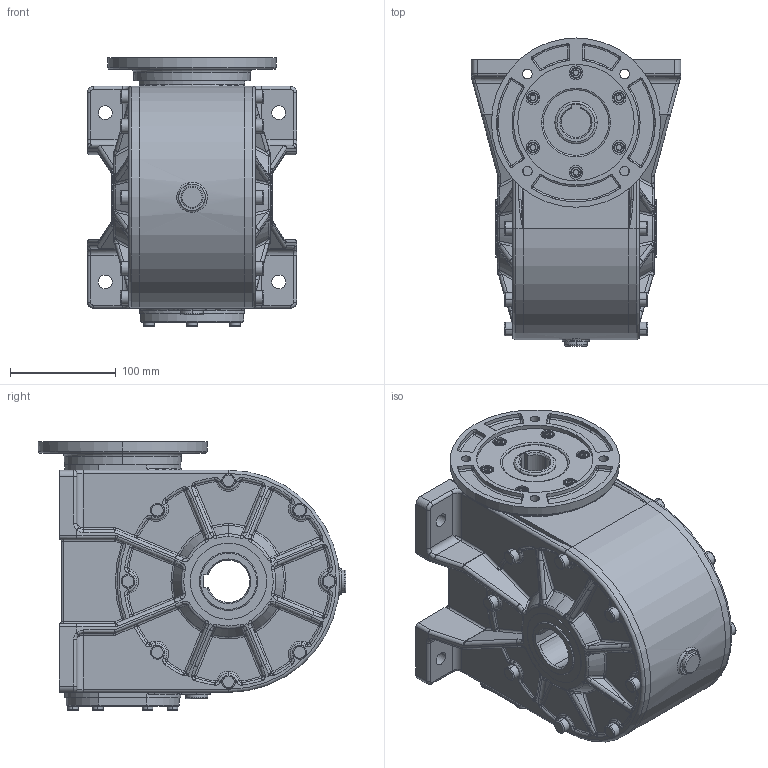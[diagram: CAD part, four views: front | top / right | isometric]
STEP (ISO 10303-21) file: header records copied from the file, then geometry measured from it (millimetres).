
FILE_DESCRIPTION (( 'STEP AP214' ), '1' );
FILE_NAME ('Sestava MRT100-B.STEP', '2007-05-22T07:27:34', ( '' ), ( '' ), 'SwSTEP 2.0', 'SolidWorks 2004146', '' );
FILE_SCHEMA (( 'AUTOMOTIVE_DESIGN' ));
Length unit declared in the file: millimetre
Products named in the file (6): Skøíò100_Výchozí; Patka 100_Výchozí; Sroub s vnitrnim sestihranem DIN 912 00457ROI; Pøíruba MRT100 kulatá _110-130-150; Víèko_Výchozí; Sestava MRT100-B
Assembly tree (11 placements, depth 2):
  Sestava MRT100-B
    Sroub s vnitrnim sestihranem DIN 912 00457ROI  x6
    Víèko_Výchozí
    Patka 100_Výchozí  x2
    Pøíruba MRT100 kulatá _110-130-150
    Skøíò100_Výchozí
Bounding box: 198 x 291 x 254 mm (x, y, z)
Volume: 6372367.2 mm3; surface area: 572229.3 mm2
Topology: 11 solids, 11 shells, 1549 faces, 3562 edges, 2000 vertices
Faces by surface type: torus 459, bspline 322, cylinder 303, plane 244, cone 131, sphere 90
Entity records: 70816 total; most frequent: CARTESIAN_POINT 51226, DIRECTION 4302, ORIENTED_EDGE 3980, EDGE_CURVE 1990, AXIS2_PLACEMENT_3D 1953, CIRCLE 1229, VERTEX_POINT 1161, EDGE_LOOP 939
